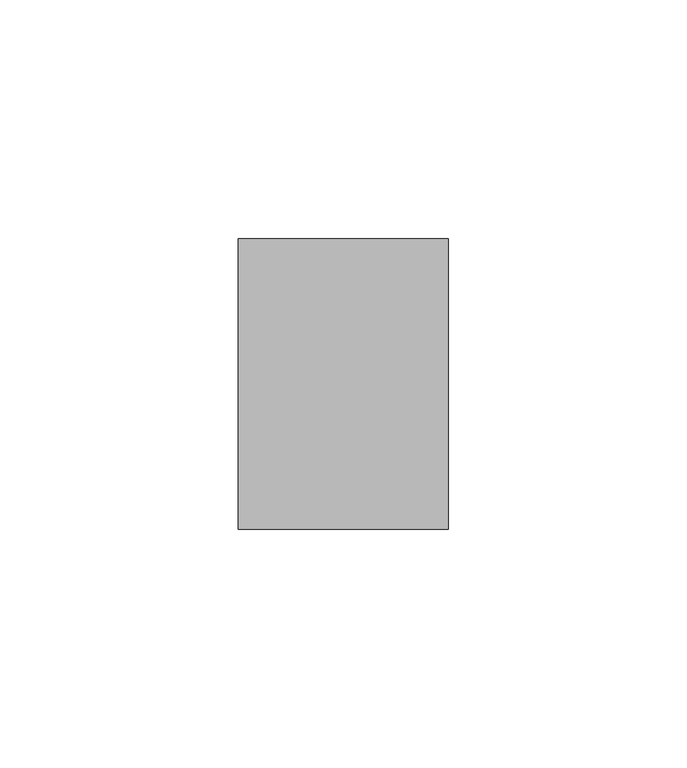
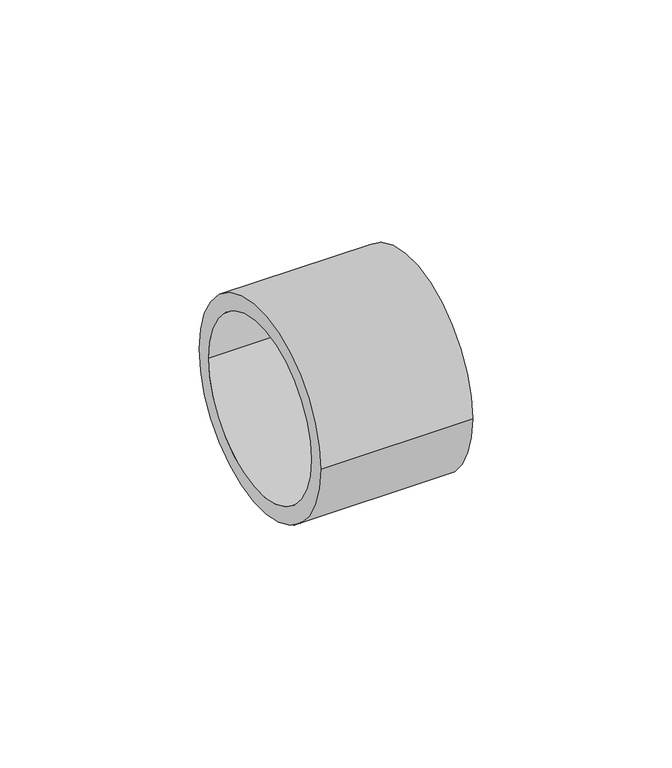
"""IFC4 building model written with IfcOpenShell, lengths in millimetres: pipe fitting geometry, RAUTITAN_Sleeve SDR 7,4 : RTI S SDR 7,4."""

from ifc_helpers import new_model, si_unit, point, frame, origin, origin_2d, place, context, project, spatial, circle_curve, trimmed, segment, composite_curve, outline, extrude, source, transform, mapped, element, save


def pipe_fitting_5c01712a(model_context):
    return source(origin(), model_context, "Body", "SweptSolid", [
        extrude(outline(composite_curve([segment(trimmed(circle_curve(origin_2d(), 30.5), [point((-30.5, 0.0))], [point((30.5, 0.0))], False, "CARTESIAN"), True, "CONTINUOUS"), segment(trimmed(circle_curve(origin_2d(), 30.5), [point((30.5, 0.0))], [point((-30.5, 0.0))], False, "CARTESIAN"), True, "CONTINUOUS")], self_intersect=False), holes=[composite_curve([segment(trimmed(circle_curve(origin_2d(), 25.7), [point((-25.7, 0.0))], [point((25.7, 0.0))], True, "CARTESIAN"), True, "CONTINUOUS"), segment(trimmed(circle_curve(origin_2d(), 25.7), [point((25.7, 0.0))], [point((-25.7, 0.0))], True, "CARTESIAN"), True, "CONTINUOUS")], self_intersect=False)]), frame((0.0, 0.0, 0.0), z_axis=(1.0, 0.0, 0.0), x_axis=(0.0, 1.0, 0.0)), (0.0, 0.0, 1.0), 44.0),
    ])


if __name__ == "__main__":
    model = new_model("IFC4")
    model_context = context("Model", 3, world=origin())
    ifc_project = project(units=[si_unit("LENGTHUNIT", "METRE", prefix="MILLI")], contexts=[model_context])
    site = spatial("IfcSite", under=ifc_project)
    building = spatial("IfcBuilding", under=site)
    placement = place(None, origin())
    pipe_fitting_shape = pipe_fitting_5c01712a(model_context)
    element("IfcPipeFitting", 1, ObjectType="RAUTITAN_Sleeve SDR 7,4 : RTI S SDR 7,4", at=placement, inside=building, context=model_context, shape_type="MappedRepresentation", body=[
        mapped(pipe_fitting_shape, transform((0.0, 0.0, 0.0), x_axis=(1.0, 0.0, 0.0), y_axis=(0.0, 1.0, 0.0), z_axis=(0.0, 0.0, 1.0))),
    ])
    save(model, "model.ifc")
